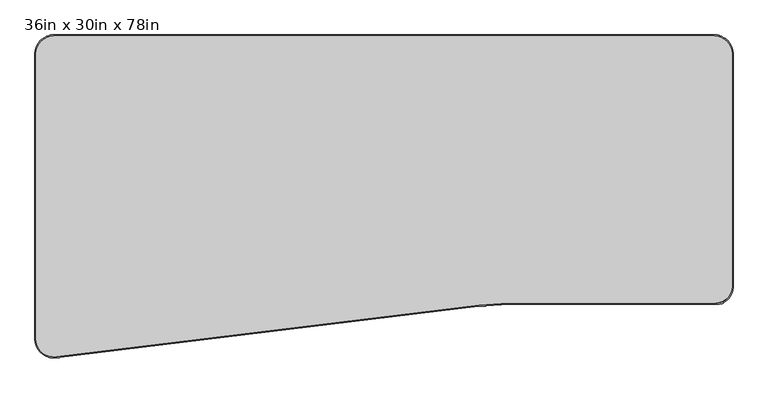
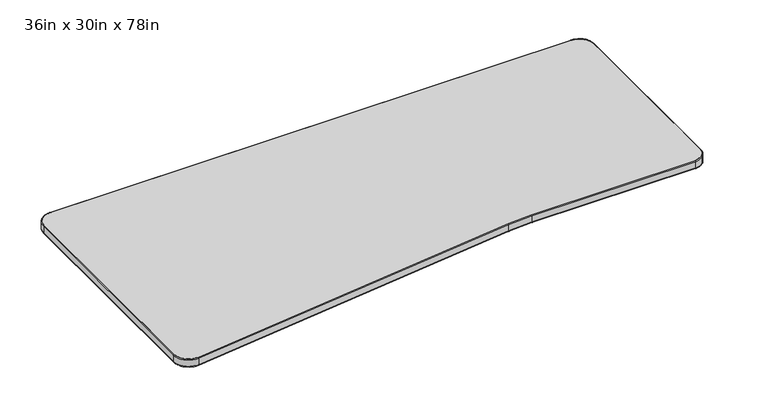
"""IFC4 building model written with IfcOpenShell, lengths in millimetres: furniture geometry, Steelcase - Answer Solution - Universal Table - Transition - Left : 36in x 30in x 78in."""

from ifc_helpers import new_model, si_unit, point, frame, frame_2d, origin, place, context, project, spatial, polyline, circle_curve, ellipse_curve, trimmed, segment, composite_curve, outline, extrude, source, transform, mapped, element, save
from ifc_brep_helpers import plane_surface, cylinder_surface, revolved_surface, advanced_brep


def furniture_36in_x_30in_x_78in_6322faa8(model_context):
    return source(origin(), model_context, "Body", "SolidModel", [
        extrude(outline(composite_curve([segment(polyline([(53.8479244, -3.0479999), (1921.0019516, -3.0479999)]), True, "CONTINUOUS"), segment(trimmed(circle_curve(frame_2d((1921.0019516, -53.8479999)), 50.8), [point((1921.0019516, -3.0479999))], [point((1971.8019516, -53.8479999))], False, "CARTESIAN"), True, "CONTINUOUS"), segment(polyline([(1971.8019516, -53.8479999), (1971.8019516, -711.0676965)]), True, "CONTINUOUS"), segment(trimmed(circle_curve(frame_2d((1923.9176452, -711.0676965)), 47.8843065), [point((1971.8019516, -711.0676965))], [point((1923.9176452, -758.9520029))], False, "CARTESIAN"), True, "CONTINUOUS"), segment(polyline([(1923.9176452, -758.9520029), (1339.5747338, -758.9520029)]), True, "CONTINUOUS"), segment(trimmed(circle_curve(frame_2d((1339.5747338, -1446.1704002)), 687.2183973), [point((1339.5747338, -758.9520029))], [point((1256.0043966, -764.0522841))], True, "CARTESIAN"), True, "CONTINUOUS"), segment(polyline([(1256.0043966, -764.0522841), (60.025543, -910.5787488)]), True, "CONTINUOUS"), segment(trimmed(circle_curve(frame_2d((53.8479244, -860.1557677)), 50.8), [point((60.025543, -910.5787488))], [point((3.0479244, -860.1557677))], False, "CARTESIAN"), True, "CONTINUOUS"), segment(polyline([(3.0479244, -860.1557677), (3.0479244, -53.8479999)]), True, "CONTINUOUS"), segment(trimmed(circle_curve(frame_2d((53.8479244, -53.8479999)), 50.8), [point((3.0479244, -53.8479999))], [point((53.8479244, -3.0479999))], False, "CARTESIAN"), True, "CONTINUOUS")], self_intersect=False)), frame((0.0, 0.0, 668.274), z_axis=(0.0, 0.0, 1.0), x_axis=(1.0, 0.0, 0.0)), (0.0, 0.0, 1.0), 30.0481659),
        advanced_brep(
        [(-7.55e-05, -53.8479999, 671.3219999), (53.8479244, 0.0, 671.3219999), (53.8479244, -3.0479999, 668.274), (3.0479244, -53.8479999, 668.274), (-7.55e-05, -53.8479999, 695.274166), (53.8479244, 0.0, 695.274166), (3.0479244, -53.8479999, 698.3221659), (53.8479244, -3.0479999, 698.3221659), (3.0479244, -860.1557677, 668.274), (-7.55e-05, -860.1557677, 671.3219999), (-7.55e-05, -860.1557677, 695.274166), (3.0479244, -860.1557677, 698.3221659), (60.3962001, -913.6041276, 671.3219999), (60.025543, -910.5787488, 668.274), (60.3962001, -913.6041276, 695.274166), (60.025543, -910.5787488, 698.3221659), (1254.0804802, -764.2879945, 668.274), (1254.4511373, -767.3133733, 671.3219999), (1254.4511373, -767.3133733, 695.274166), (1254.0804802, -764.2879945, 698.3221659), (1341.5130356, -762.0000028, 671.3219999), (1341.5130356, -758.9520029, 668.274), (1341.5130356, -762.0000028, 695.274166), (1341.5130356, -758.9520029, 698.3221659), (1927.3519516, -758.9520029, 668.274), (1927.3519516, -762.0000028, 671.3219999), (1927.3519516, -762.0000028, 695.274166), (1927.3519516, -758.9520029, 698.3221659), (1974.8499516, -714.5020029, 671.3219999), (1971.8019516, -714.5020029, 668.274), (1974.8499516, -714.5020029, 695.274166), (1971.8019516, -714.5020029, 698.3221659), (1971.8019516, -53.8479999, 668.274), (1974.8499516, -53.8479999, 671.3219999), (1974.8499516, -53.8479999, 695.274166), (1971.8019516, -53.8479999, 698.3221659), (1921.0019516, 0.0, 671.3219999), (1921.0019516, -3.0479999, 668.274), (1921.0019516, 0.0, 695.274166), (1921.0019516, -3.0479999, 698.3221659)],
        [
            (0, 1, circle_curve(frame((53.8479244, -53.8479999, 671.3219999), z_axis=(0.0, 0.0, -1.0), x_axis=(0.0, 1.0, 0.0)), 53.8479999)),
            (1, 2, circle_curve(frame((53.8479244, -3.0479999, 671.3219999), z_axis=(-1.0, 0.0, 0.0), x_axis=(0.0, -1.0, 0.0)), 3.0479999)),
            (2, 3, circle_curve(frame((53.8479244, -53.8479999, 668.274), z_axis=(0.0, 0.0, 1.0), x_axis=(0.0, 1.0, 0.0)), 50.8)),
            (3, 0, circle_curve(frame((3.0479244, -53.8479999, 671.3219999), z_axis=(0.0, 1.0, 0.0), x_axis=(1.0, 0.0, 0.0)), 3.0479999)),
            (4, 5, circle_curve(frame((53.8479244, -53.8479999, 695.274166), z_axis=(0.0, 0.0, -1.0), x_axis=(0.0, 1.0, 0.0)), 53.8479999)),
            (5, 1),
            (0, 4),
            (6, 7, circle_curve(frame((53.8479244, -53.8479999, 698.3221659), z_axis=(0.0, 0.0, -1.0), x_axis=(0.0, 1.0, 0.0)), 50.8)),
            (7, 5, circle_curve(frame((53.8479244, -3.0479999, 695.274166), z_axis=(-1.0, 0.0, 0.0), x_axis=(0.0, -1.0, 0.0)), 3.0479999)),
            (4, 6, circle_curve(frame((3.0479244, -53.8479999, 695.274166), z_axis=(0.0, 1.0, 0.0), x_axis=(1.0, 0.0, 0.0)), 3.0479999)),
            (2, 7),
            (6, 3),
            (3, 8),
            (8, 9, circle_curve(frame((3.0479244, -860.1557677, 671.3219999), z_axis=(0.0, 1.0, 0.0), x_axis=(1.0, 0.0, 0.0)), 3.0479999)),
            (9, 0),
            (9, 10),
            (10, 4),
            (10, 11, circle_curve(frame((3.0479244, -860.1557677, 695.274166), z_axis=(0.0, 1.0, 0.0), x_axis=(1.0, 0.0, 0.0)), 3.0479999)),
            (11, 6),
            (11, 8),
            (12, 9, circle_curve(frame((53.8479244, -860.1557677, 671.3219999), z_axis=(0.0, 0.0, -1.0), x_axis=(-1.0, 0.0, 0.0)), 53.8479999)),
            (8, 13, circle_curve(frame((53.8479244, -860.1557677, 668.274), z_axis=(0.0, 0.0, 1.0), x_axis=(-1.0, 0.0, 0.0)), 50.8)),
            (13, 12, circle_curve(frame((60.025543, -910.5787488, 671.3219999), z_axis=(-0.9925783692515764, -0.12160666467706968, 0.0), x_axis=(-0.12160666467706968, 0.9925783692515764, 0.0)), 3.0479999)),
            (14, 10, circle_curve(frame((53.8479244, -860.1557677, 695.274166), z_axis=(0.0, 0.0, -1.0), x_axis=(-1.0, 0.0, 0.0)), 53.8479999)),
            (12, 14),
            (15, 11, circle_curve(frame((53.8479244, -860.1557677, 698.3221659), z_axis=(0.0, 0.0, -1.0), x_axis=(-1.0, 0.0, 0.0)), 50.8)),
            (14, 15, circle_curve(frame((60.025543, -910.5787488, 695.274166), z_axis=(-0.9925783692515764, -0.12160666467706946, 0.0), x_axis=(-0.12160666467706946, 0.9925783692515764, 0.0)), 3.0479999)),
            (15, 13),
            (13, 16),
            (16, 17, circle_curve(frame((1254.0804802, -764.2879945, 671.3219999), z_axis=(-0.9925783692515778, -0.12160666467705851, 0.0), x_axis=(-0.12160666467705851, 0.9925783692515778, 0.0)), 3.0479999)),
            (17, 12),
            (17, 18),
            (18, 14),
            (18, 19, circle_curve(frame((1254.0804802, -764.2879945, 695.274166), z_axis=(-0.9925783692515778, -0.12160666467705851, 0.0), x_axis=(-0.12160666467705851, 0.9925783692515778, 0.0)), 3.0479999)),
            (19, 15),
            (19, 16),
            (20, 17, circle_curve(frame((1341.5130356, -1477.9303219, 671.3219999), z_axis=(0.0, 0.0, 1.0), x_axis=(-0.12160666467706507, 0.9925783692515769, 0.0)), 715.9303191)),
            (16, 21, circle_curve(frame((1341.5130356, -1477.9303219, 668.274), z_axis=(0.0, 0.0, -1.0), x_axis=(-0.12160666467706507, 0.9925783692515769, 0.0)), 718.978319)),
            (21, 20, circle_curve(frame((1341.5130356, -758.9520029, 671.3219999), z_axis=(-1.0, 0.0, 0.0), x_axis=(0.0, 1.0, 0.0)), 3.0479999)),
            (22, 18, circle_curve(frame((1341.5130356, -1477.9303219, 695.274166), z_axis=(0.0, 0.0, 1.0), x_axis=(-0.12160666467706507, 0.9925783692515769, 0.0)), 715.9303191)),
            (20, 22),
            (23, 19, circle_curve(frame((1341.5130356, -1477.9303219, 698.3221659), z_axis=(0.0, 0.0, 1.0), x_axis=(-0.12160666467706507, 0.9925783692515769, 0.0)), 718.978319)),
            (22, 23, circle_curve(frame((1341.5130356, -758.9520029, 695.274166), z_axis=(-1.0, 0.0, 0.0), x_axis=(0.0, 1.0, 0.0)), 3.0479999)),
            (23, 21),
            (21, 24),
            (24, 25, circle_curve(frame((1927.3519516, -758.9520029, 671.3219999), z_axis=(-1.0, 0.0, 0.0), x_axis=(0.0, 1.0, 0.0)), 3.0479999)),
            (25, 20),
            (25, 26),
            (26, 22),
            (26, 27, circle_curve(frame((1927.3519516, -758.9520029, 695.274166), z_axis=(-1.0, 0.0, 0.0), x_axis=(0.0, 1.0, 0.0)), 3.0479999)),
            (27, 23),
            (27, 24),
            (28, 25, circle_curve(frame((1927.3519516, -714.5020029, 671.3219999), z_axis=(0.0, 0.0, -1.0), x_axis=(0.0, -1.0, 0.0)), 47.4979999)),
            (24, 29, circle_curve(frame((1927.3519516, -714.5020029, 668.274), z_axis=(0.0, 0.0, 1.0), x_axis=(0.0, -1.0, 0.0)), 44.45)),
            (29, 28, circle_curve(frame((1971.8019516, -714.5020029, 671.3219999), z_axis=(0.0, -1.0, 0.0), x_axis=(-1.0, 0.0, 0.0)), 3.0479999)),
            (30, 26, circle_curve(frame((1927.3519516, -714.5020029, 695.274166), z_axis=(0.0, 0.0, -1.0), x_axis=(0.0, -1.0, 0.0)), 47.4979999)),
            (28, 30),
            (31, 27, circle_curve(frame((1927.3519516, -714.5020029, 698.3221659), z_axis=(0.0, 0.0, -1.0), x_axis=(0.0, -1.0, 0.0)), 44.45)),
            (30, 31, circle_curve(frame((1971.8019516, -714.5020029, 695.274166), z_axis=(0.0, -1.0, 0.0), x_axis=(-1.0, 0.0, 0.0)), 3.0479999)),
            (31, 29),
            (29, 32),
            (32, 33, circle_curve(frame((1971.8019516, -53.8479999, 671.3219999), z_axis=(0.0, -1.0, 0.0), x_axis=(-1.0, 0.0, 0.0)), 3.0479999)),
            (33, 28),
            (33, 34),
            (34, 30),
            (34, 35, circle_curve(frame((1971.8019516, -53.8479999, 695.274166), z_axis=(0.0, -1.0, 0.0), x_axis=(-1.0, 0.0, 0.0)), 3.0479999)),
            (35, 31),
            (35, 32),
            (36, 33, circle_curve(frame((1921.0019516, -53.8479999, 671.3219999), z_axis=(0.0, 0.0, -1.0), x_axis=(1.0, 0.0, 0.0)), 53.8479999)),
            (32, 37, circle_curve(frame((1921.0019516, -53.8479999, 668.274), z_axis=(0.0, 0.0, 1.0), x_axis=(1.0, 0.0, 0.0)), 50.8)),
            (37, 36, circle_curve(frame((1921.0019516, -3.0479999, 671.3219999), z_axis=(1.0, 0.0, 0.0), x_axis=(0.0, -1.0, 0.0)), 3.0479999)),
            (38, 34, circle_curve(frame((1921.0019516, -53.8479999, 695.274166), z_axis=(0.0, 0.0, -1.0), x_axis=(1.0, 0.0, 0.0)), 53.8479999)),
            (36, 38),
            (39, 35, circle_curve(frame((1921.0019516, -53.8479999, 698.3221659), z_axis=(0.0, 0.0, -1.0), x_axis=(1.0, 0.0, 0.0)), 50.8)),
            (38, 39, circle_curve(frame((1921.0019516, -3.0479999, 695.274166), z_axis=(1.0, 0.0, 0.0), x_axis=(0.0, -1.0, 0.0)), 3.0479999)),
            (39, 37),
            (37, 2),
            (1, 36),
            (5, 38),
            (7, 39),
        ],
        [
            revolved_surface(trimmed(ellipse_curve(frame((53.8479244, -3.0479999, 671.3219999), z_axis=(1.0, 0.0, 0.0), x_axis=(0.0, -1.0, 0.0)), 3.0479999, 3.0479999), [point((53.8479244, -3.0479999, 668.274))], [point((53.8479244, 0.0, 671.3219999))], True, "CARTESIAN"), (53.8479244, -53.8479999, 0.0), (0.0, 0.0, 1.0)),
            cylinder_surface(frame((53.8479244, -53.8479999, 0.0), z_axis=(0.0, 0.0, 1.0), x_axis=(0.0, 1.0, 0.0)), 53.8479999),
            revolved_surface(trimmed(ellipse_curve(frame((53.8479244, -3.0479999, 695.274166), z_axis=(1.0, 0.0, 0.0), x_axis=(0.0, -1.0, 0.0)), 3.0479999, 3.0479999), [point((53.8479244, 0.0, 695.274166))], [point((53.8479244, -3.0479999, 698.3221659))], True, "CARTESIAN"), (53.8479244, -53.8479999, 0.0), (0.0, 0.0, 1.0)),
            revolved_surface(polyline([(53.8479244, -3.0479999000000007, 698.3221659), (53.8479244, -3.0479999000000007, 668.274)]), (53.8479244, -53.8479999, 0.0), (0.0, 0.0, 1.0)),
            cylinder_surface(frame((3.0479244, -53.8479999, 671.3219999), z_axis=(0.0, 1.0, 0.0), x_axis=(1.0, 0.0, 0.0)), 3.0479999),
            plane_surface(frame((-7.55e-05, -53.8479999, 671.3219999), z_axis=(-1.0, 0.0, 0.0), x_axis=(0.0, -1.0, 0.0))),
            cylinder_surface(frame((3.0479244, -53.8479999, 695.274166), z_axis=(0.0, 1.0, 0.0), x_axis=(1.0, 0.0, 0.0)), 3.0479999),
            plane_surface(frame((3.0479244, -53.8479999, 698.3221659), z_axis=(1.0, 0.0, 0.0), x_axis=(0.0, -1.0, 0.0))),
            revolved_surface(trimmed(ellipse_curve(frame((3.0479244, -860.1557677, 671.3219999), z_axis=(0.0, 1.0, 0.0), x_axis=(1.0, 0.0, 0.0)), 3.0479999, 3.0479999), [point((3.0479244, -860.1557677, 668.274))], [point((-7.55e-05, -860.1557677, 671.3219999))], True, "CARTESIAN"), (53.8479244, -860.1557677, 0.0), (0.0, 0.0, 1.0)),
            cylinder_surface(frame((53.8479244, -860.1557677, 0.0), z_axis=(0.0, 0.0, 1.0), x_axis=(-1.0, 0.0, 0.0)), 53.8479999),
            revolved_surface(trimmed(ellipse_curve(frame((3.0479244, -860.1557677, 695.274166), z_axis=(0.0, 1.0, 0.0), x_axis=(1.0, 0.0, 0.0)), 3.0479999, 3.0479999), [point((-7.55e-05, -860.1557677, 695.274166))], [point((3.0479244, -860.1557677, 698.3221659))], True, "CARTESIAN"), (53.8479244, -860.1557677, 0.0), (0.0, 0.0, 1.0)),
            revolved_surface(polyline([(3.0479243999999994, -860.1557677, 698.3221659), (3.0479243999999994, -860.1557677, 668.274)]), (53.8479244, -860.1557677, 0.0), (0.0, 0.0, 1.0)),
            cylinder_surface(frame((60.025543, -910.5787488, 671.3219999), z_axis=(-0.9925783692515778, -0.12160666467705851, 0.0), x_axis=(-0.12160666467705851, 0.9925783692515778, 0.0)), 3.0479999),
            plane_surface(frame((60.3962001, -913.6041276, 671.3219999), z_axis=(0.1216066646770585, -0.9925783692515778, 0.0), x_axis=(0.9925783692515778, 0.1216066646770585, 0.0))),
            cylinder_surface(frame((60.025543, -910.5787488, 695.274166), z_axis=(-0.9925783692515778, -0.12160666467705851, 0.0), x_axis=(-0.12160666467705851, 0.9925783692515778, 0.0)), 3.0479999),
            plane_surface(frame((60.025543, -910.5787488, 698.3221659), z_axis=(-0.1216066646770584, 0.9925783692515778, 0.0), x_axis=(0.9925783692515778, 0.1216066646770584, 0.0))),
            revolved_surface(trimmed(ellipse_curve(frame((1254.0804802, -764.2879945, 671.3219999), z_axis=(-0.9925783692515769, -0.12160666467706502, 0.0), x_axis=(-0.12160666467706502, 0.9925783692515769, 0.0)), 3.0479999, 3.0479999), [point((1254.0804802, -764.2879945, 668.274))], [point((1254.4511373, -767.3133733, 671.3219999))], True, "CARTESIAN"), (1341.5130356, -1477.9303219, 0.0), (0.0, 0.0, -1.0)),
            revolved_surface(polyline([(1254.451137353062, -767.313373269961, 671.3219999), (1254.451137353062, -767.313373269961, 695.274166)]), (1341.5130356, -1477.9303219, 0.0), (0.0, 0.0, -1.0)),
            revolved_surface(trimmed(ellipse_curve(frame((1254.0804802, -764.2879945, 695.274166), z_axis=(-0.9925783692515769, -0.12160666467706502, 0.0), x_axis=(-0.12160666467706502, 0.9925783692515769, 0.0)), 3.0479999, 3.0479999), [point((1254.4511373, -767.3133733, 695.274166))], [point((1254.0804802, -764.2879945, 698.3221659))], True, "CARTESIAN"), (1341.5130356, -1477.9303219, 0.0), (0.0, 0.0, -1.0)),
            cylinder_surface(frame((1341.5130356, -1477.9303219, 0.0), z_axis=(0.0, 0.0, -1.0), x_axis=(-0.12160666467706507, 0.9925783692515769, 0.0)), 718.978319),
            cylinder_surface(frame((1341.5130356, -758.9520029, 671.3219999), z_axis=(-1.0, 0.0, 0.0), x_axis=(0.0, 1.0, 0.0)), 3.0479999),
            plane_surface(frame((1341.5130356, -762.0000028, 671.3219999), z_axis=(0.0, -1.0, 0.0), x_axis=(1.0, 0.0, 0.0))),
            cylinder_surface(frame((1341.5130356, -758.9520029, 695.274166), z_axis=(-1.0, 0.0, 0.0), x_axis=(0.0, 1.0, 0.0)), 3.0479999),
            plane_surface(frame((1341.5130356, -758.9520029, 698.3221659), z_axis=(0.0, 1.0, 0.0), x_axis=(1.0, 0.0, 0.0))),
            revolved_surface(trimmed(ellipse_curve(frame((1927.3519516, -758.9520029, 671.3219999), z_axis=(-1.0, 0.0, 0.0), x_axis=(0.0, 1.0, 0.0)), 3.0479999, 3.0479999), [point((1927.3519516, -758.9520029, 668.274))], [point((1927.3519516, -762.0000028, 671.3219999))], True, "CARTESIAN"), (1927.3519516, -714.5020029, 0.0), (0.0, 0.0, 1.0)),
            cylinder_surface(frame((1927.3519516, -714.5020029, 0.0), z_axis=(0.0, 0.0, 1.0), x_axis=(0.0, -1.0, 0.0)), 47.4979999),
            revolved_surface(trimmed(ellipse_curve(frame((1927.3519516, -758.9520029, 695.274166), z_axis=(-1.0, 0.0, 0.0), x_axis=(0.0, 1.0, 0.0)), 3.0479999, 3.0479999), [point((1927.3519516, -762.0000028, 695.274166))], [point((1927.3519516, -758.9520029, 698.3221659))], True, "CARTESIAN"), (1927.3519516, -714.5020029, 0.0), (0.0, 0.0, 1.0)),
            revolved_surface(polyline([(1927.3519516, -758.9520029, 698.3221659), (1927.3519516, -758.9520029, 668.274)]), (1927.3519516, -714.5020029, 0.0), (0.0, 0.0, 1.0)),
            cylinder_surface(frame((1971.8019516, -714.5020029, 671.3219999), z_axis=(0.0, -1.0, 0.0), x_axis=(-1.0, 0.0, 0.0)), 3.0479999),
            plane_surface(frame((1974.8499516, -714.5020029, 671.3219999), z_axis=(1.0, 0.0, 0.0), x_axis=(0.0, 1.0, 0.0))),
            cylinder_surface(frame((1971.8019516, -714.5020029, 695.274166), z_axis=(0.0, -1.0, 0.0), x_axis=(-1.0, 0.0, 0.0)), 3.0479999),
            plane_surface(frame((1971.8019516, -714.5020029, 698.3221659), z_axis=(-1.0, 0.0, 0.0), x_axis=(0.0, 1.0, 0.0))),
            revolved_surface(trimmed(ellipse_curve(frame((1971.8019516, -53.8479999, 671.3219999), z_axis=(0.0, -1.0, 0.0), x_axis=(-1.0, 0.0, 0.0)), 3.0479999, 3.0479999), [point((1971.8019516, -53.8479999, 668.274))], [point((1974.8499516, -53.8479999, 671.3219999))], True, "CARTESIAN"), (1921.0019516, -53.8479999, 0.0), (0.0, 0.0, 1.0)),
            cylinder_surface(frame((1921.0019516, -53.8479999, 0.0), z_axis=(0.0, 0.0, 1.0), x_axis=(1.0, 0.0, 0.0)), 53.8479999),
            revolved_surface(trimmed(ellipse_curve(frame((1971.8019516, -53.8479999, 695.274166), z_axis=(0.0, -1.0, 0.0), x_axis=(-1.0, 0.0, 0.0)), 3.0479999, 3.0479999), [point((1974.8499516, -53.8479999, 695.274166))], [point((1971.8019516, -53.8479999, 698.3221659))], True, "CARTESIAN"), (1921.0019516, -53.8479999, 0.0), (0.0, 0.0, 1.0)),
            revolved_surface(polyline([(1971.8019516, -53.8479999, 698.3221659), (1971.8019516, -53.8479999, 668.274)]), (1921.0019516, -53.8479999, 0.0), (0.0, 0.0, 1.0)),
            cylinder_surface(frame((1921.0019516, -3.0479999, 671.3219999), z_axis=(1.0, 0.0, 0.0), x_axis=(0.0, -1.0, 0.0)), 3.0479999),
            plane_surface(frame((1921.0019516, 0.0, 671.3219999), z_axis=(0.0, 1.0, 0.0), x_axis=(-1.0, 0.0, 0.0))),
            cylinder_surface(frame((1921.0019516, -3.0479999, 695.274166), z_axis=(1.0, 0.0, 0.0), x_axis=(0.0, -1.0, 0.0)), 3.0479999),
            plane_surface(frame((1921.0019516, -3.0479999, 698.3221659), z_axis=(0.0, -1.0, 0.0), x_axis=(-1.0, 0.0, 0.0))),
        ],
        [
            (0, [[1, 2, 3, 4]]),
            (1, [[5, 6, -1, 7]]),
            (2, [[8, 9, -5, 10]]),
            (3, [[-3, 11, -8, 12]]),
            (4, [[-4, 13, 14, 15]]),
            (5, [[-7, -15, 16, 17]]),
            (6, [[-10, -17, 18, 19]]),
            (7, [[-12, -19, 20, -13]]),
            (8, [[21, -14, 22, 23]]),
            (9, [[24, -16, -21, 25]]),
            (10, [[26, -18, -24, 27]]),
            (11, [[-22, -20, -26, 28]]),
            (12, [[-23, 29, 30, 31]]),
            (13, [[-25, -31, 32, 33]]),
            (14, [[-27, -33, 34, 35]]),
            (15, [[-28, -35, 36, -29]]),
            (16, [[37, -30, 38, 39]]),
            (17, [[40, -32, -37, 41]]),
            (18, [[42, -34, -40, 43]]),
            (19, [[-38, -36, -42, 44]]),
            (20, [[-39, 45, 46, 47]]),
            (21, [[-41, -47, 48, 49]]),
            (22, [[-43, -49, 50, 51]]),
            (23, [[-44, -51, 52, -45]]),
            (24, [[53, -46, 54, 55]]),
            (25, [[56, -48, -53, 57]]),
            (26, [[58, -50, -56, 59]]),
            (27, [[-54, -52, -58, 60]]),
            (28, [[-55, 61, 62, 63]]),
            (29, [[-57, -63, 64, 65]]),
            (30, [[-59, -65, 66, 67]]),
            (31, [[-60, -67, 68, -61]]),
            (32, [[69, -62, 70, 71]]),
            (33, [[72, -64, -69, 73]]),
            (34, [[74, -66, -72, 75]]),
            (35, [[-70, -68, -74, 76]]),
            (36, [[-71, 77, -2, 78]]),
            (37, [[-73, -78, -6, 79]]),
            (38, [[-75, -79, -9, 80]]),
            (39, [[-76, -80, -11, -77]]),
        ],
    ),
    ])


if __name__ == "__main__":
    model = new_model("IFC4")
    model_context = context("Model", 3, world=origin())
    ifc_project = project(units=[si_unit("LENGTHUNIT", "METRE", prefix="MILLI")], contexts=[model_context])
    site = spatial("IfcSite", under=ifc_project)
    building = spatial("IfcBuilding", under=site)
    placement = place(None, origin())
    furniture_36in_x_30in_x_78in_shape = furniture_36in_x_30in_x_78in_6322faa8(model_context)
    element("IfcFurniture", 1, ObjectType="Steelcase - Answer Solution - Universal Table - Transition - Left : 36in x 30in x 78in", at=placement, inside=building, context=model_context, shape_type="MappedRepresentation", body=[
        mapped(furniture_36in_x_30in_x_78in_shape, transform((0.0, 0.0, 0.0), x_axis=(1.0, 0.0, 0.0), y_axis=(0.0, 1.0, 0.0), z_axis=(0.0, 0.0, 1.0))),
    ])
    save(model, "model.ifc")
